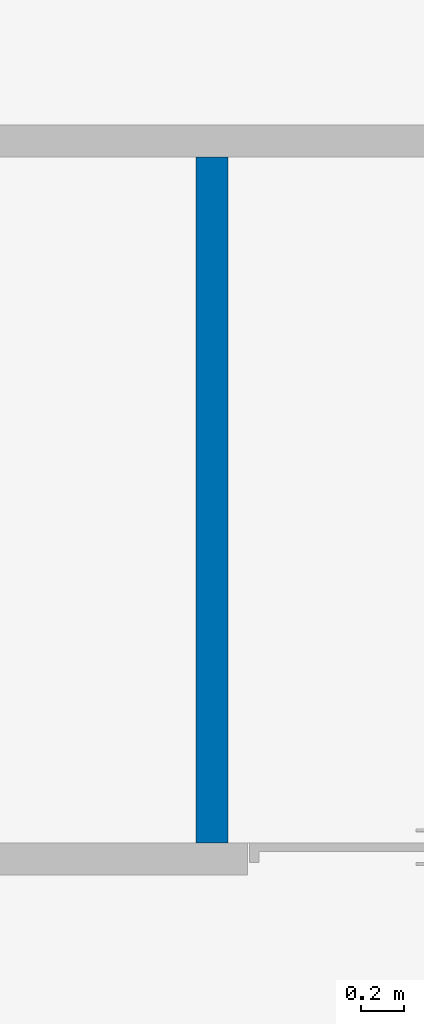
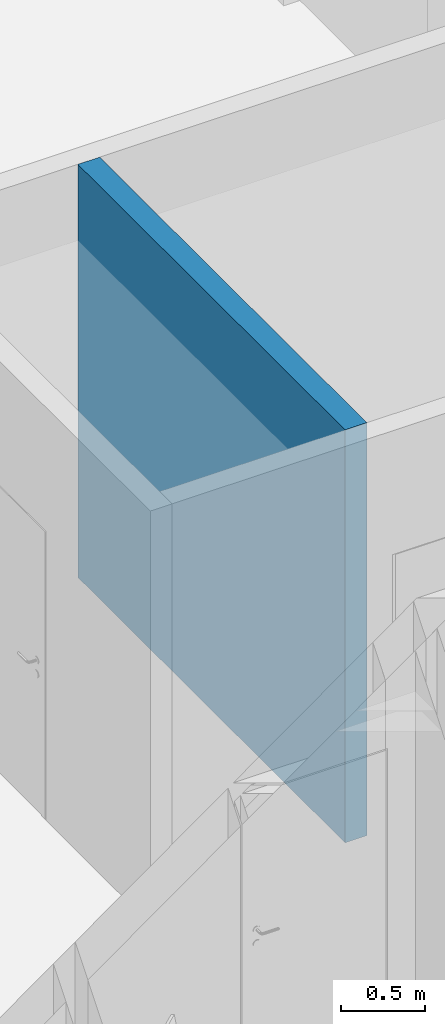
# One storey, part 22 of 58: 1 wall.
"""IFC2X3 building model written with IfcOpenShell, lengths in millimetres."""

from ifc_helpers import new_model, entity, si_unit, converted_unit, derived_unit, direction, frame, frame_2d, origin, place, context, subcontext, project, spatial, rectangle, extrude, material, layer, layer_set, layer_usage, type_object, element, save


model = new_model("IFC2X3")

# Units and contexts
model_context = context("Model", 3, precision=0.01, world=origin(), true_north=direction((0.7716245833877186, 0.6360782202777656)))
body_context = subcontext(model_context, "Body", "Model", "MODEL_VIEW")
ifc_project = project(units=[si_unit("LENGTHUNIT", "METRE", prefix="MILLI"), si_unit("AREAUNIT", "SQUARE_METRE"), converted_unit("PLANEANGLEUNIT", "DEGREE", entity("IfcPlaneAngleMeasure", 0.017453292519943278), si_unit("PLANEANGLEUNIT", "RADIAN"), dimensions=[0, 0, 0, 0, 0, 0, 0]), derived_unit("THERMALTRANSMITTANCEUNIT", [(si_unit("MASSUNIT", "GRAM", prefix="KILO"), 1), (si_unit("THERMODYNAMICTEMPERATUREUNIT", "KELVIN"), -1), (si_unit("TIMEUNIT", "SECOND"), -3)])], contexts=[model_context])

# Site, building, storey
site_placement = place(None, origin())
site = spatial("IfcSite", under=ifc_project, at=site_placement, Name="Default", CompositionType="ELEMENT")
building_placement = place(site_placement, origin())
building = spatial("IfcBuilding", under=site, at=building_placement, CompositionType="ELEMENT")
storey_placement = place(building_placement, frame((0.0, 0.0, 31140.0)))
storey = spatial("IfcBuildingStorey", under=building, at=storey_placement, Name="PLAN U1", CompositionType="ELEMENT", Elevation=31140.000000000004)

# Wall
ifc_material = material(Name="Eksist. vegg")
ifc_layer = layer(ifc_material, 150.0)
ifc_layer_set = layer_set([ifc_layer], Name="Basic Wall:240 Eksist. Innervegg 150 mm")
ifc_layer_usage = layer_usage(ifc_layer_set, "AXIS2", "NEGATIVE", 75.0)
wall_type = type_object("IfcWallType", Name="Basic Wall:240 Eksist. Innervegg 150 mm", PredefinedType="STANDARD", material=ifc_layer_set)
wall_placement = place(storey_placement, frame((273767.924446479, 62570.723071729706, 0.0), z_axis=(0.0, 0.0, 1.0), x_axis=(0.0, -1.0, 0.0)))
element("IfcWallStandardCase", 1, at=wall_placement, inside=storey, type_object=wall_type, material=ifc_layer_usage, Name="Basic Wall:240 Eksist. Innervegg 150 mm", ObjectType="Basic Wall:240 Eksist. Innervegg 150 mm", context=body_context, shape_type="SweptSolid", body=[
    extrude(rectangle(XDim=3180.467521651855, YDim=150.00000000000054, at=frame_2d((1590.2337608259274, 0.0), x_axis=(-1.0, 0.0))), origin(), (0.0, 0.0, 1.0), 2999.9999999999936),
])

save(model, "model.ifc")
